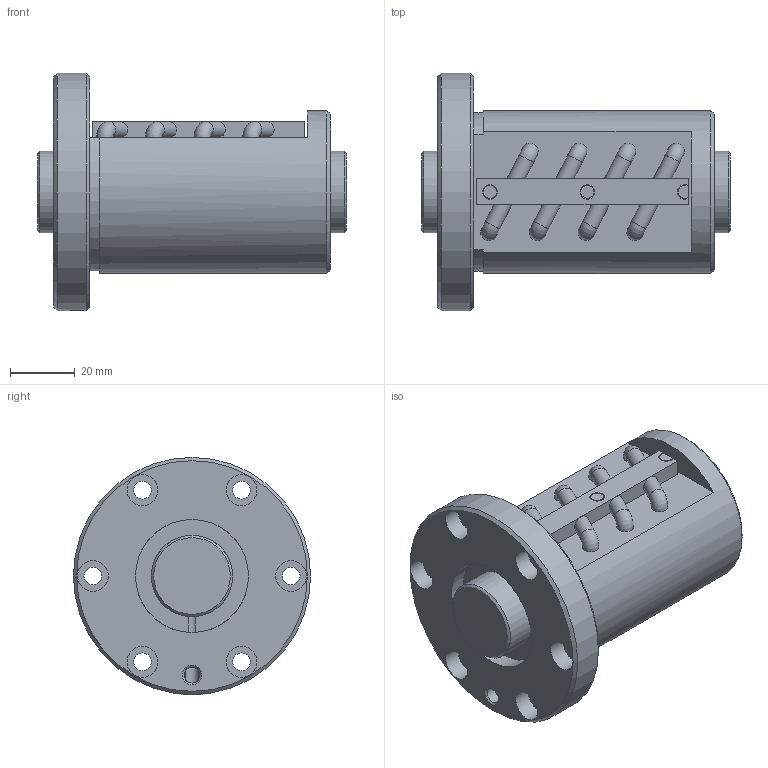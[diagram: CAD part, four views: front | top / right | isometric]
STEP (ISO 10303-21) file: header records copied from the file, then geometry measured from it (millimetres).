
FILE_DESCRIPTION(/* description */ ('STEP AP203'),/* implementation_level */ '2;1');
FILE_NAME(/* name */ 'BIF2505V-10RRG0+95LC0_000',/* time_stamp */ '2024-07-15T08:17:22+02:00',/* author */ ('License CC BY-ND 4.0'),/* organization */ ('CADENAS'),/* preprocessor_version */ 'ST-DEVELOPER v19.3',/* originating_system */ 'PARTsolutions',/* authorisation */ ' ');
FILE_SCHEMA (('CONFIG_CONTROL_DESIGN'));
Length unit declared in the file: millimetre
Products named in the file (3): BIF2505V-10RRG0+95LC0_000; BIF2505V-10RR000 Shaft; BIF2505V-10RR Nut
Assembly tree (2 placements, depth 2):
  BIF2505V-10RRG0+95LC0_000
    BIF2505V-10RR000 Shaft
    BIF2505V-10RR Nut
Bounding box: 95 x 73 x 73 mm (x, y, z)
Volume: 177363.1 mm3; surface area: 40268.3 mm2
Topology: 2 solids, 2 shells, 108 faces, 274 edges, 175 vertices
Faces by surface type: plane 47, cylinder 45, cone 8, torus 8
Full cylindrical faces by diameter (mm): 4 x2, 4.25 x2, 4.5 x2, 4.917 x1, 5.5 x6, 9.5 x6, 25 x2, 34.8 x2, 50 x1, 73 x1
Entity records: 3293 total; most frequent: CARTESIAN_POINT 642, DIRECTION 576, ORIENTED_EDGE 466, AXIS2_PLACEMENT_3D 247, EDGE_CURVE 233, EDGE_LOOP 178, FACE_BOUND 178, VERTEX_POINT 167
